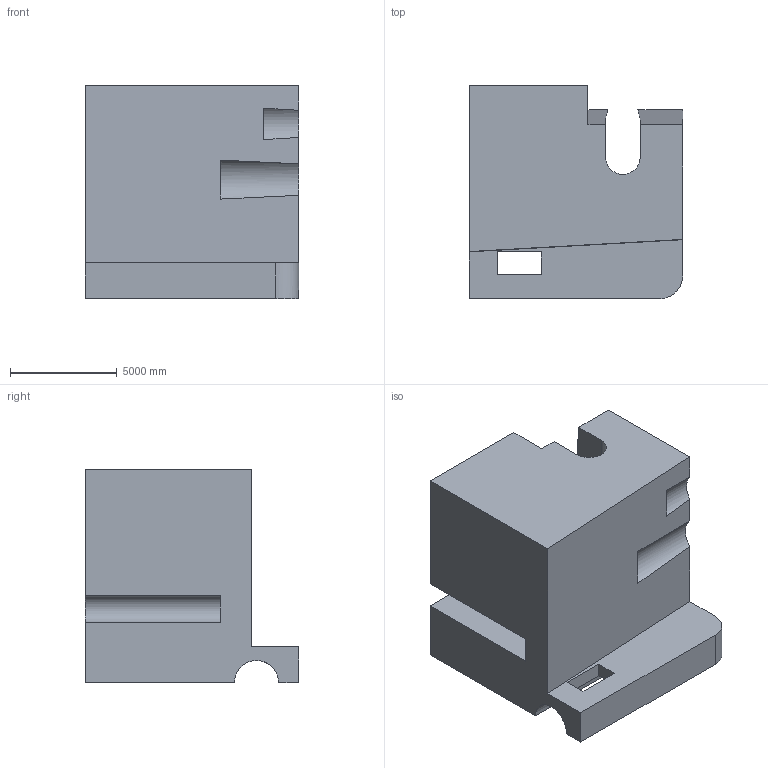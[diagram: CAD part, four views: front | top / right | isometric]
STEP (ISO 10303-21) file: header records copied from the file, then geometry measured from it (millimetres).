
FILE_DESCRIPTION (( 'STEP AP203' ), '1' );
FILE_NAME ('826.STEP', '2022-07-29T13:30:18', ( 'user' ), ( '' ), 'SwSTEP 2.0', 'SolidWorks 2021', '' );
FILE_SCHEMA (( 'CONFIG_CONTROL_DESIGN' ));
Length unit declared in the file: centimetre
Products named in the file (1): 826
Bounding box: 10000 x 10000 x 10000 mm (x, y, z)
Volume: 650086007315.9 mm3; surface area: 615987099.4 mm2
Topology: 1 solids, 1 shells, 31 faces, 87 edges, 58 vertices
Faces by surface type: plane 23, cylinder 8
Entity records: 1097 total; most frequent: CARTESIAN_POINT 216, ORIENTED_EDGE 174, DIRECTION 160, EDGE_CURVE 87, LINE 64, VECTOR 64, VERTEX_POINT 58, AXIS2_PLACEMENT_3D 48
